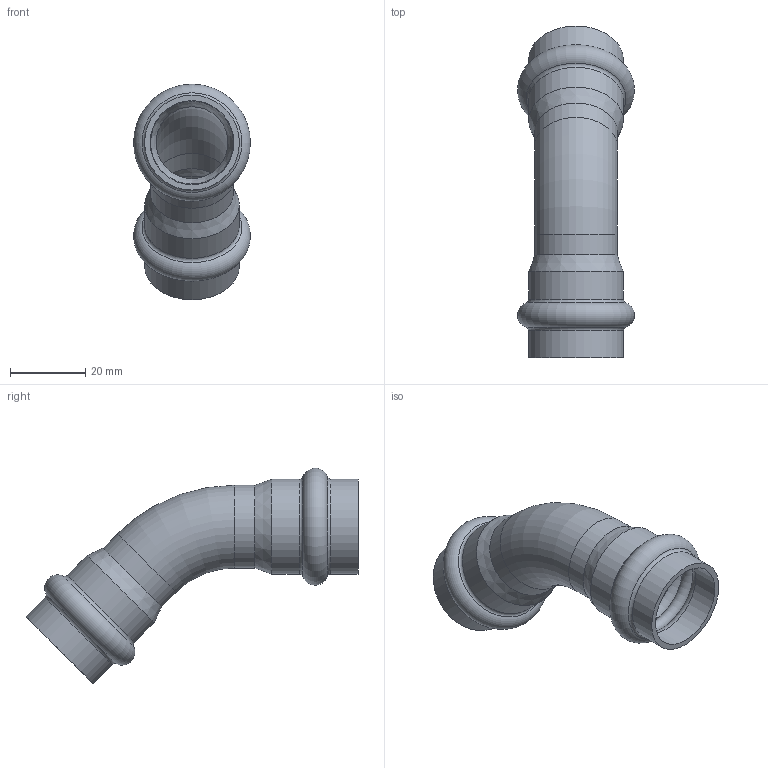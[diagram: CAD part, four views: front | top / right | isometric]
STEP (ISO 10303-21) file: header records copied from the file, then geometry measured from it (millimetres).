
FILE_DESCRIPTION(('STEP AP203'), '1');
FILE_NAME('VTi.959.I.002222', '', ('UNSPECIFIED'), ('UNSPECIFIED'), 'C3D Converter', 'C3D Toolkit', '');
FILE_SCHEMA(('CONFIG_CONTROL_DESIGN'));
Length unit declared in the file: millimetre
Products named in the file (1): ВР.302661.019.000 СБ
Bounding box: 31.08 x 88.29 x 57.33 mm (x, y, z)
Volume: 11556.5 mm3; surface area: 14526.4 mm2
Topology: 1 solids, 1 shells, 34 faces, 74 edges, 42 vertices
Faces by surface type: torus 16, cylinder 12, cone 4, plane 2
Full cylindrical faces by diameter (mm): 19.1 x2, 22 x2, 22.3 x4, 25.2 x4
Entity records: 808 total; most frequent: DIRECTION 154, CARTESIAN_POINT 119, ORIENTED_EDGE 84, AXIS2_PLACEMENT_3D 77, EDGE_LOOP 68, FACE_OUTER_BOUND 48, EDGE_CURVE 42, VERTEX_POINT 42
